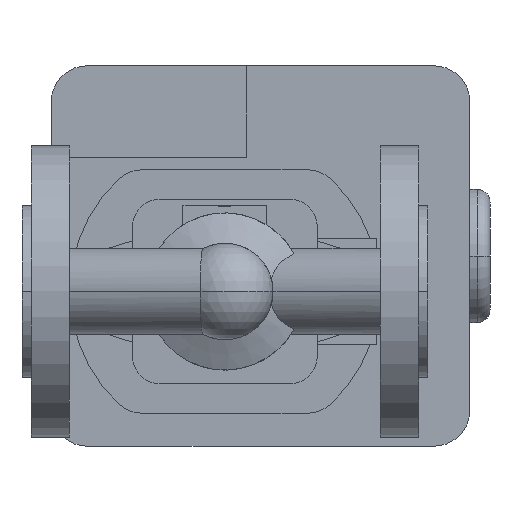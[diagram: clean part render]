
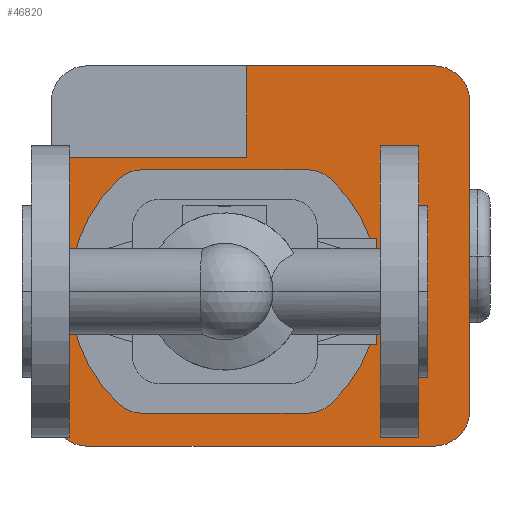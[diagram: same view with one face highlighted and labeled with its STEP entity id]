
A CAD part, front view. The second image highlights one B-rep face of the part: STEP entity #46820.
In plain terms, the highlighted planar face has unit normal (0, -1, 0).
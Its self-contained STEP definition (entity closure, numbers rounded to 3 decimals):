
#34660=CARTESIAN_POINT('',(139.96,313.,11.216));
#34670=VERTEX_POINT('',#34660);
#34700=CARTESIAN_POINT('',(130.,313.,0.));
#34710=DIRECTION('',(0.,1.,0.));
#34720=DIRECTION('',(0.,0.,1.));
#34730=AXIS2_PLACEMENT_3D('',#34700,#34710,#34720);
#34740=CIRCLE('',#34730,15.);
#34750=CARTESIAN_POINT('',(139.96,313.,-11.216));
#34760=VERTEX_POINT('',#34750);
#34770=EDGE_CURVE('',#34670,#34760,#34740,.T.);
#37490=CARTESIAN_POINT('',(122.116,313.,44.128));
#37500=VERTEX_POINT('',#37490);
#37530=CARTESIAN_POINT('',(80.,313.,0.));
#37540=DIRECTION('',(0.,1.,0.));
#37550=DIRECTION('',(0.69,0.,0.723));
#37560=AXIS2_PLACEMENT_3D('',#37530,#37540,#37550);
#37570=CIRCLE('',#37560,61.);
#37580=EDGE_CURVE('',#37500,#34670,#37570,.T.);
#37970=CARTESIAN_POINT('',(20.04,313.,-11.216));
#37980=VERTEX_POINT('',#37970);
#38010=CARTESIAN_POINT('',(30.,313.,0.));
#38020=DIRECTION('',(0.,1.,0.));
#38030=DIRECTION('',(0.,0.,-1.));
#38040=AXIS2_PLACEMENT_3D('',#38010,#38020,#38030);
#38050=CIRCLE('',#38040,15.);
#38060=CARTESIAN_POINT('',(20.04,313.,11.216));
#38070=VERTEX_POINT('',#38060);
#38080=EDGE_CURVE('',#37980,#38070,#38050,.T.);
#39070=CARTESIAN_POINT('',(37.884,313.,-44.128));
#39080=VERTEX_POINT('',#39070);
#39110=CARTESIAN_POINT('',(80.,313.,0.));
#39120=DIRECTION('',(0.,1.,0.));
#39130=DIRECTION('',(-0.69,0.,-0.723));
#39140=AXIS2_PLACEMENT_3D('',#39110,#39120,#39130);
#39150=CIRCLE('',#39140,61.);
#39160=EDGE_CURVE('',#39080,#37980,#39150,.T.);
#41470=CARTESIAN_POINT('',(162.6,313.,-61.));
#41480=VERTEX_POINT('',#41470);
#41530=CARTESIAN_POINT('',(162.6,313.,-47.));
#41540=DIRECTION('',(0.,1.,0.));
#41550=DIRECTION('',(1.,0.,0.));
#41560=AXIS2_PLACEMENT_3D('',#41530,#41540,#41550);
#41570=CIRCLE('',#41560,14.);
#41580=CARTESIAN_POINT('',(176.6,313.,-47.));
#41590=VERTEX_POINT('',#41580);
#41600=EDGE_CURVE('',#41590,#41480,#41570,.T.);
#44440=CARTESIAN_POINT('',(176.6,313.,75.));
#44450=DIRECTION('',(0.,0.,-1.));
#44460=VECTOR('',#44450,1.);
#44470=LINE('',#44440,#44460);
#44480=CARTESIAN_POINT('',(176.6,313.,75.));
#44490=VERTEX_POINT('',#44480);
#44500=EDGE_CURVE('',#44490,#41590,#44470,.T.);
#44910=CARTESIAN_POINT('',(25.6,313.,-61.));
#44920=VERTEX_POINT('',#44910);
#44950=CARTESIAN_POINT('',(162.6,313.,-61.));
#44960=DIRECTION('',(-1.,0.,0.));
#44970=VECTOR('',#44960,1.);
#44980=LINE('',#44950,#44970);
#44990=EDGE_CURVE('',#41480,#44920,#44980,.T.);
#45520=CARTESIAN_POINT('',(80.,313.,0.));
#45530=DIRECTION('',(0.,1.,0.));
#45540=DIRECTION('',(0.,0.,1.));
#45550=AXIS2_PLACEMENT_3D('',#45520,#45530,#45540);
#45560=PLANE('',#45550);
#45570=ORIENTED_EDGE('',*,*,#37580,.T.);
#45580=CARTESIAN_POINT('',(112.45,313.,34.));
#45590=DIRECTION('',(0.,1.,0.));
#45600=DIRECTION('',(0.,0.,1.));
#45610=AXIS2_PLACEMENT_3D('',#45580,#45590,#45600);
#45620=CIRCLE('',#45610,14.);
#45630=CARTESIAN_POINT('',(112.45,313.,48.));
#45640=VERTEX_POINT('',#45630);
#45650=EDGE_CURVE('',#45640,#37500,#45620,.T.);
#45660=ORIENTED_EDGE('',*,*,#45650,.T.);
#45670=CARTESIAN_POINT('',(63.775,313.,48.));
#45680=DIRECTION('',(1.,0.,0.));
#45690=VECTOR('',#45680,1.);
#45700=LINE('',#45670,#45690);
#45710=CARTESIAN_POINT('',(47.55,313.,48.));
#45720=VERTEX_POINT('',#45710);
#45730=EDGE_CURVE('',#45720,#45640,#45700,.T.);
#45740=ORIENTED_EDGE('',*,*,#45730,.T.);
#45750=CARTESIAN_POINT('',(47.55,313.,34.));
#45760=DIRECTION('',(0.,1.,0.));
#45770=DIRECTION('',(-0.69,0.,0.723));
#45780=AXIS2_PLACEMENT_3D('',#45750,#45760,#45770);
#45790=CIRCLE('',#45780,14.);
#45800=CARTESIAN_POINT('',(37.884,313.,44.128));
#45810=VERTEX_POINT('',#45800);
#45820=EDGE_CURVE('',#45810,#45720,#45790,.T.);
#45830=ORIENTED_EDGE('',*,*,#45820,.T.);
#45840=CARTESIAN_POINT('',(80.,313.,0.));
#45850=DIRECTION('',(0.,1.,0.));
#45860=DIRECTION('',(-0.69,0.,-0.723));
#45870=AXIS2_PLACEMENT_3D('',#45840,#45850,#45860);
#45880=CIRCLE('',#45870,61.);
#45890=EDGE_CURVE('',#38070,#45810,#45880,.T.);
#45900=ORIENTED_EDGE('',*,*,#45890,.T.);
#45910=ORIENTED_EDGE('',*,*,#38080,.T.);
#45920=ORIENTED_EDGE('',*,*,#39160,.T.);
#45930=CARTESIAN_POINT('',(47.55,313.,-34.));
#45940=DIRECTION('',(0.,1.,0.));
#45950=DIRECTION('',(0.,0.,-1.));
#45960=AXIS2_PLACEMENT_3D('',#45930,#45940,#45950);
#45970=CIRCLE('',#45960,14.);
#45980=CARTESIAN_POINT('',(47.55,313.,-48.));
#45990=VERTEX_POINT('',#45980);
#46000=EDGE_CURVE('',#45990,#39080,#45970,.T.);
#46010=ORIENTED_EDGE('',*,*,#46000,.T.);
#46020=CARTESIAN_POINT('',(96.225,313.,-48.));
#46030=DIRECTION('',(-1.,0.,0.));
#46040=VECTOR('',#46030,1.);
#46050=LINE('',#46020,#46040);
#46060=CARTESIAN_POINT('',(112.45,313.,-48.));
#46070=VERTEX_POINT('',#46060);
#46080=EDGE_CURVE('',#46070,#45990,#46050,.T.);
#46090=ORIENTED_EDGE('',*,*,#46080,.T.);
#46100=CARTESIAN_POINT('',(112.45,313.,-34.));
#46110=DIRECTION('',(0.,1.,0.));
#46120=DIRECTION('',(0.69,0.,-0.723));
#46130=AXIS2_PLACEMENT_3D('',#46100,#46110,#46120);
#46140=CIRCLE('',#46130,14.);
#46150=CARTESIAN_POINT('',(122.116,313.,-44.128));
#46160=VERTEX_POINT('',#46150);
#46170=EDGE_CURVE('',#46160,#46070,#46140,.T.);
#46180=ORIENTED_EDGE('',*,*,#46170,.T.);
#46190=CARTESIAN_POINT('',(80.,313.,0.));
#46200=DIRECTION('',(0.,1.,0.));
#46210=DIRECTION('',(0.69,0.,0.723));
#46220=AXIS2_PLACEMENT_3D('',#46190,#46200,#46210);
#46230=CIRCLE('',#46220,61.);
#46240=EDGE_CURVE('',#34760,#46160,#46230,.T.);
#46250=ORIENTED_EDGE('',*,*,#46240,.T.);
#46260=ORIENTED_EDGE('',*,*,#34770,.T.);
#46270=EDGE_LOOP('',(#46260,#46250,#46180,#46090,#46010,#45920,#45910,
#45900,#45830,#45740,#45660,#45570));
#46280=FACE_BOUND('',#46270,.T.);
#46290=CARTESIAN_POINT('',(88.6,313.,26.5));
#46300=DIRECTION('',(0.,0.,-1.));
#46310=VECTOR('',#46300,1.);
#46320=LINE('',#46290,#46310);
#46330=CARTESIAN_POINT('',(88.6,313.,89.));
#46340=VERTEX_POINT('',#46330);
#46350=CARTESIAN_POINT('',(88.6,313.,53.));
#46360=VERTEX_POINT('',#46350);
#46370=EDGE_CURVE('',#46340,#46360,#46320,.T.);
#46380=ORIENTED_EDGE('',*,*,#46370,.T.);
#46390=CARTESIAN_POINT('',(25.6,313.,89.));
#46400=DIRECTION('',(1.,0.,0.));
#46410=VECTOR('',#46400,1.);
#46420=LINE('',#46390,#46410);
#46430=CARTESIAN_POINT('',(162.6,313.,89.));
#46440=VERTEX_POINT('',#46430);
#46450=EDGE_CURVE('',#46340,#46440,#46420,.T.);
#46460=ORIENTED_EDGE('',*,*,#46450,.F.);
#46470=CARTESIAN_POINT('',(162.6,313.,75.));
#46480=DIRECTION('',(0.,1.,0.));
#46490=DIRECTION('',(0.,0.,1.));
#46500=AXIS2_PLACEMENT_3D('',#46470,#46480,#46490);
#46510=CIRCLE('',#46500,14.);
#46520=EDGE_CURVE('',#46440,#44490,#46510,.T.);
#46530=ORIENTED_EDGE('',*,*,#46520,.F.);
#46540=ORIENTED_EDGE('',*,*,#44500,.F.);
#46550=ORIENTED_EDGE('',*,*,#41600,.F.);
#46560=ORIENTED_EDGE('',*,*,#44990,.F.);
#46570=CARTESIAN_POINT('',(25.6,313.,-47.));
#46580=DIRECTION('',(0.,1.,0.));
#46590=DIRECTION('',(0.,0.,-1.));
#46600=AXIS2_PLACEMENT_3D('',#46570,#46580,#46590);
#46610=CIRCLE('',#46600,14.);
#46620=CARTESIAN_POINT('',(11.6,313.,-47.));
#46630=VERTEX_POINT('',#46620);
#46640=EDGE_CURVE('',#44920,#46630,#46610,.T.);
#46650=ORIENTED_EDGE('',*,*,#46640,.F.);
#46660=CARTESIAN_POINT('',(11.6,313.,-47.));
#46670=DIRECTION('',(0.,0.,1.));
#46680=VECTOR('',#46670,1.);
#46690=LINE('',#46660,#46680);
#46700=CARTESIAN_POINT('',(11.6,313.,53.));
#46710=VERTEX_POINT('',#46700);
#46720=EDGE_CURVE('',#46630,#46710,#46690,.T.);
#46730=ORIENTED_EDGE('',*,*,#46720,.F.);
#46740=CARTESIAN_POINT('',(45.3,313.,53.));
#46750=DIRECTION('',(-1.,0.,0.));
#46760=VECTOR('',#46750,1.);
#46770=LINE('',#46740,#46760);
#46780=EDGE_CURVE('',#46360,#46710,#46770,.T.);
#46790=ORIENTED_EDGE('',*,*,#46780,.T.);
#46800=EDGE_LOOP('',(#46790,#46730,#46650,#46560,#46550,#46540,#46530,
#46460,#46380));
#46810=FACE_OUTER_BOUND('',#46800,.T.);
#46820=ADVANCED_FACE('',(#46280,#46810),#45560,.F.);
